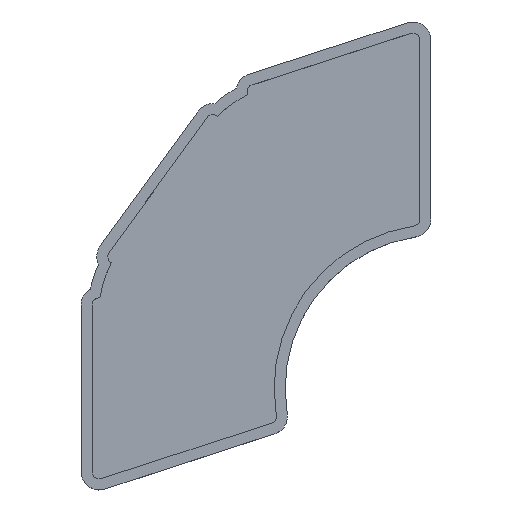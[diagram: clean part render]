
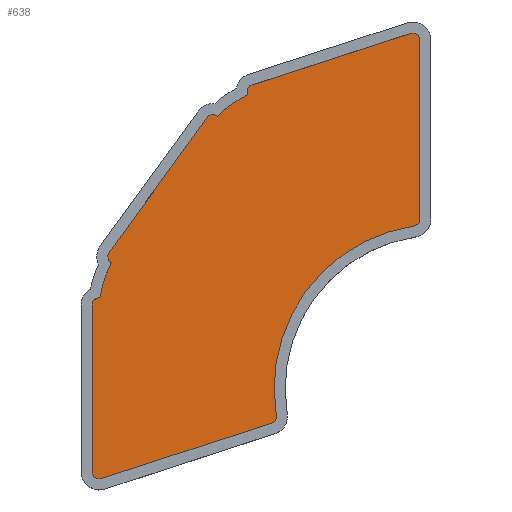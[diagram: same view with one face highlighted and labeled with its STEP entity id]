
A CAD part, top view. The second image highlights one B-rep face of the part: STEP entity #638.
In plain terms, the highlighted planar face has unit normal (0, 0, 1).
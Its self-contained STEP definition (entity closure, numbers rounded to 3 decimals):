
#21=PLANE('',#709);
#45=FACE_OUTER_BOUND('',#80,.T.);
#80=EDGE_LOOP('',(#472,#473,#474,#475,#476,#477,#478,#479,#480,#481,#482,
#483,#484,#485,#486,#487));
#102=LINE('',#974,#154);
#106=LINE('',#986,#158);
#112=LINE('',#1010,#164);
#118=LINE('',#1034,#170);
#122=LINE('',#1046,#174);
#154=VECTOR('',#762,10.);
#158=VECTOR('',#774,10.);
#164=VECTOR('',#800,10.);
#170=VECTOR('',#826,10.);
#174=VECTOR('',#838,10.);
#204=CIRCLE('',#672,1.95);
#206=CIRCLE('',#676,1.95);
#208=CIRCLE('',#680,1.95);
#210=CIRCLE('',#683,29.898);
#212=CIRCLE('',#686,1.95);
#214=CIRCLE('',#690,1.95);
#216=CIRCLE('',#693,29.898);
#218=CIRCLE('',#696,1.95);
#220=CIRCLE('',#700,1.95);
#222=CIRCLE('',#704,1.95);
#224=CIRCLE('',#707,44.58);
#248=VERTEX_POINT('',#964);
#249=VERTEX_POINT('',#965);
#252=VERTEX_POINT('',#973);
#254=VERTEX_POINT('',#979);
#256=VERTEX_POINT('',#985);
#258=VERTEX_POINT('',#991);
#260=VERTEX_POINT('',#997);
#262=VERTEX_POINT('',#1003);
#264=VERTEX_POINT('',#1009);
#266=VERTEX_POINT('',#1015);
#268=VERTEX_POINT('',#1021);
#270=VERTEX_POINT('',#1027);
#272=VERTEX_POINT('',#1033);
#274=VERTEX_POINT('',#1039);
#276=VERTEX_POINT('',#1045);
#278=VERTEX_POINT('',#1051);
#312=EDGE_CURVE('',#248,#249,#204,.F.);
#316=EDGE_CURVE('',#252,#248,#102,.F.);
#319=EDGE_CURVE('',#254,#252,#206,.F.);
#322=EDGE_CURVE('',#256,#254,#106,.F.);
#325=EDGE_CURVE('',#258,#256,#208,.F.);
#328=EDGE_CURVE('',#260,#258,#210,.F.);
#331=EDGE_CURVE('',#262,#260,#212,.F.);
#334=EDGE_CURVE('',#264,#262,#112,.F.);
#337=EDGE_CURVE('',#266,#264,#214,.F.);
#340=EDGE_CURVE('',#268,#266,#216,.F.);
#343=EDGE_CURVE('',#270,#268,#218,.F.);
#346=EDGE_CURVE('',#272,#270,#118,.F.);
#349=EDGE_CURVE('',#274,#272,#220,.F.);
#352=EDGE_CURVE('',#276,#274,#122,.F.);
#355=EDGE_CURVE('',#278,#276,#222,.F.);
#358=EDGE_CURVE('',#249,#278,#224,.F.);
#472=ORIENTED_EDGE('',*,*,#358,.T.);
#473=ORIENTED_EDGE('',*,*,#355,.T.);
#474=ORIENTED_EDGE('',*,*,#352,.T.);
#475=ORIENTED_EDGE('',*,*,#349,.T.);
#476=ORIENTED_EDGE('',*,*,#346,.T.);
#477=ORIENTED_EDGE('',*,*,#343,.T.);
#478=ORIENTED_EDGE('',*,*,#340,.T.);
#479=ORIENTED_EDGE('',*,*,#337,.T.);
#480=ORIENTED_EDGE('',*,*,#334,.T.);
#481=ORIENTED_EDGE('',*,*,#331,.T.);
#482=ORIENTED_EDGE('',*,*,#328,.T.);
#483=ORIENTED_EDGE('',*,*,#325,.T.);
#484=ORIENTED_EDGE('',*,*,#322,.T.);
#485=ORIENTED_EDGE('',*,*,#319,.T.);
#486=ORIENTED_EDGE('',*,*,#316,.T.);
#487=ORIENTED_EDGE('',*,*,#312,.T.);
#638=ADVANCED_FACE('',(#45),#21,.T.);
#672=AXIS2_PLACEMENT_3D('',#966,#754,#755);
#676=AXIS2_PLACEMENT_3D('',#980,#767,#768);
#680=AXIS2_PLACEMENT_3D('',#992,#779,#780);
#683=AXIS2_PLACEMENT_3D('',#998,#786,#787);
#686=AXIS2_PLACEMENT_3D('',#1004,#793,#794);
#690=AXIS2_PLACEMENT_3D('',#1016,#805,#806);
#693=AXIS2_PLACEMENT_3D('',#1022,#812,#813);
#696=AXIS2_PLACEMENT_3D('',#1028,#819,#820);
#700=AXIS2_PLACEMENT_3D('',#1040,#831,#832);
#704=AXIS2_PLACEMENT_3D('',#1052,#843,#844);
#707=AXIS2_PLACEMENT_3D('',#1057,#850,#851);
#709=AXIS2_PLACEMENT_3D('',#1059,#854,#855);
#754=DIRECTION('center_axis',(0.,0.,-1.));
#755=DIRECTION('ref_axis',(0.855,-0.519,0.));
#762=DIRECTION('',(-0.951,-0.309,0.));
#767=DIRECTION('center_axis',(0.,0.,-1.));
#768=DIRECTION('ref_axis',(-0.588,-0.809,0.));
#774=DIRECTION('',(0.,1.,0.));
#779=DIRECTION('center_axis',(0.,0.,-1.));
#780=DIRECTION('ref_axis',(-0.588,0.809,0.));
#786=DIRECTION('center_axis',(0.,0.,-1.));
#787=DIRECTION('ref_axis',(-0.847,0.531,0.));
#793=DIRECTION('center_axis',(0.,0.,-1.));
#794=DIRECTION('ref_axis',(-0.951,-0.309,0.));
#800=DIRECTION('',(0.588,0.809,0.));
#805=DIRECTION('center_axis',(0.,0.,-1.));
#806=DIRECTION('ref_axis',(0.,1.,0.));
#812=DIRECTION('center_axis',(0.,0.,-1.));
#813=DIRECTION('ref_axis',(-0.373,0.928,0.));
#819=DIRECTION('center_axis',(0.,0.,-1.));
#820=DIRECTION('ref_axis',(-0.951,0.309,0.));
#826=DIRECTION('',(0.951,0.309,0.));
#831=DIRECTION('center_axis',(0.,0.,-1.));
#832=DIRECTION('ref_axis',(0.588,0.809,0.));
#838=DIRECTION('',(0.,-1.,0.));
#843=DIRECTION('center_axis',(0.,0.,-1.));
#844=DIRECTION('ref_axis',(0.758,-0.652,0.));
#850=DIRECTION('center_axis',(0.,0.,1.));
#851=DIRECTION('ref_axis',(-0.048,0.999,0.));
#854=DIRECTION('center_axis',(0.,0.,1.));
#855=DIRECTION('ref_axis',(-0.309,-0.951,0.));
#964=CARTESIAN_POINT('',(-195.818,-8.621,6.15));
#965=CARTESIAN_POINT('',(-194.497,-6.446,6.15));
#966=CARTESIAN_POINT('Origin',(-196.421,-6.766,6.15));
#973=CARTESIAN_POINT('',(-241.988,-23.622,6.15));
#974=CARTESIAN_POINT('',(-197.023,-9.012,6.15));
#979=CARTESIAN_POINT('',(-244.54,-21.767,6.15));
#980=CARTESIAN_POINT('Origin',(-242.59,-21.767,6.15));
#985=CARTESIAN_POINT('',(-244.54,23.49,6.15));
#986=CARTESIAN_POINT('',(-244.54,12.176,6.15));
#991=CARTESIAN_POINT('',(-242.393,25.43,6.15));
#992=CARTESIAN_POINT('Origin',(-242.59,23.49,6.15));
#997=CARTESIAN_POINT('',(-239.28,34.982,6.15));
#998=CARTESIAN_POINT('Origin',(-212.813,21.073,6.15));
#1003=CARTESIAN_POINT('',(-239.885,37.818,6.15));
#1004=CARTESIAN_POINT('Origin',(-238.307,36.672,6.15));
#1009=CARTESIAN_POINT('',(-213.283,74.432,6.15));
#1010=CARTESIAN_POINT('',(-219.934,65.278,6.15));
#1015=CARTESIAN_POINT('',(-210.405,74.739,6.15));
#1016=CARTESIAN_POINT('Origin',(-211.706,73.286,6.15));
#1021=CARTESIAN_POINT('',(-202.273,80.637,6.15));
#1022=CARTESIAN_POINT('Origin',(-189.037,53.828,6.15));
#1027=CARTESIAN_POINT('',(-201.095,83.287,6.15));
#1028=CARTESIAN_POINT('Origin',(-200.493,81.433,6.15));
#1033=CARTESIAN_POINT('',(-158.053,97.272,6.15));
#1034=CARTESIAN_POINT('',(-168.813,93.776,6.15));
#1039=CARTESIAN_POINT('',(-155.5,95.418,6.15));
#1040=CARTESIAN_POINT('Origin',(-157.45,95.418,6.15));
#1045=CARTESIAN_POINT('',(-155.5,46.872,6.15));
#1046=CARTESIAN_POINT('',(-155.5,23.867,6.15));
#1051=CARTESIAN_POINT('',(-157.16,44.944,6.15));
#1052=CARTESIAN_POINT('Origin',(-157.45,46.872,6.15));
#1057=CARTESIAN_POINT('Origin',(-150.52,0.861,6.15));
#1059=CARTESIAN_POINT('Origin',(-150.52,0.861,6.15));
